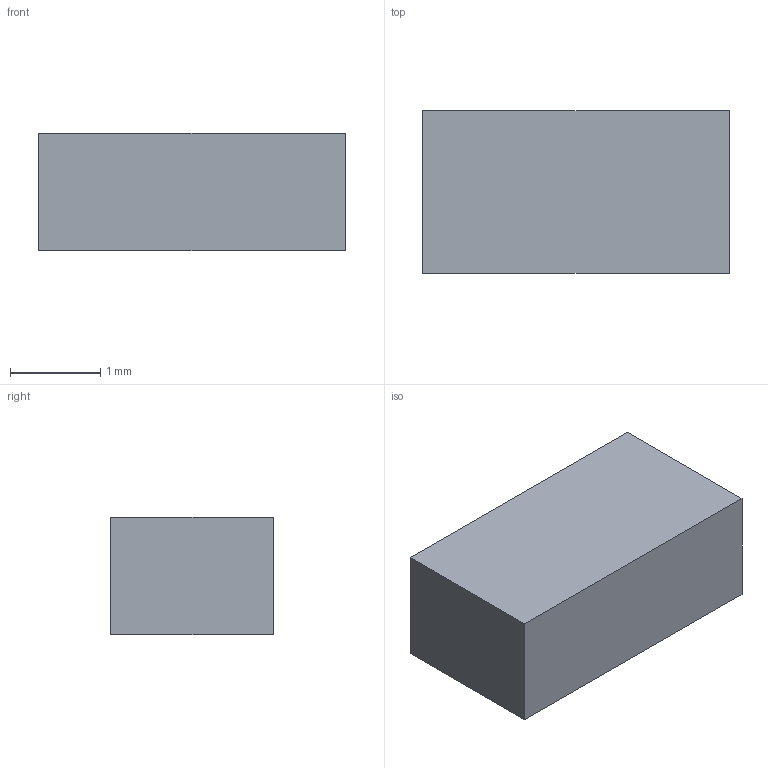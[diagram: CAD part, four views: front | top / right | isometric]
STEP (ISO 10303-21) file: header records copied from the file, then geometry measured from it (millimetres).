
FILE_DESCRIPTION(('Open CASCADE Model'),'2;1');
FILE_NAME('Open CASCADE Shape Model','2026-09-17T14:57:39',('Author'),( 'Open CASCADE'),'Open CASCADE STEP processor 7.8','Open CASCADE 7.8' ,'Unknown');
FILE_SCHEMA(('AUTOMOTIVE_DESIGN { 1 0 10303 214 1 1 1 1 }'));
Length unit declared in the file: millimetre
Products named in the file (1): Open CASCADE STEP translator 7.8 15
Bounding box: 3.4 x 1.8 x 1.3 mm (x, y, z)
Volume: 8 mm3; surface area: 25.8 mm2
Topology: 1 solids, 1 shells, 6 faces, 12 edges, 8 vertices
Faces by surface type: plane 6
Entity records: 322 total; most frequent: CARTESIAN_POINT 51, DIRECTION 50, LINE 36, VECTOR 36, ORIENTED_EDGE 24, PCURVE 24, DEFINITIONAL_REPRESENTATION 24, EDGE_CURVE 12
